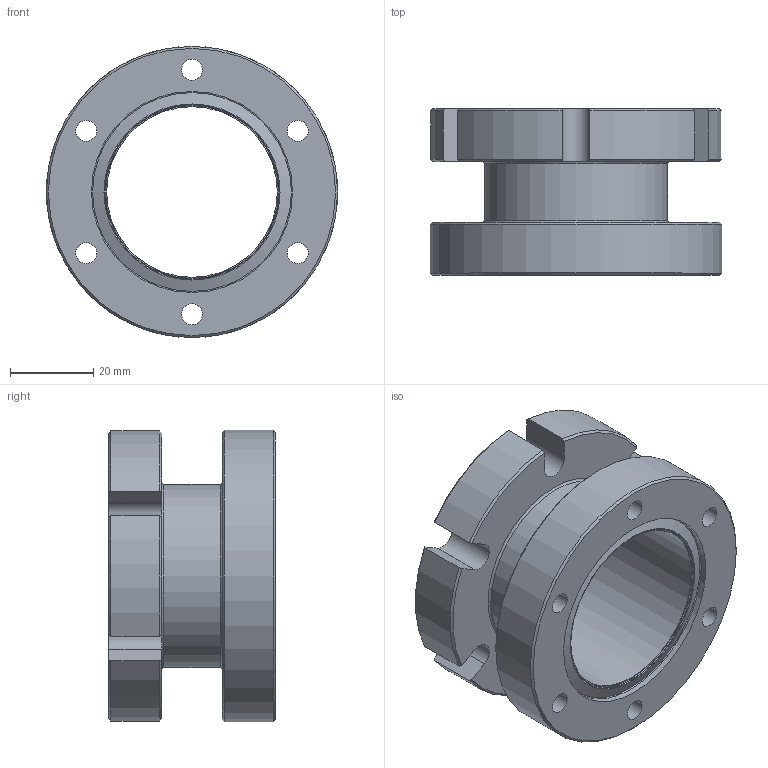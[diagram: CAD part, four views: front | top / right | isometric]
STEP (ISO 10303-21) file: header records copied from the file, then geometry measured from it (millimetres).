
FILE_DESCRIPTION(/* description */ (''),/* implementation_level */ '2;1');
FILE_NAME(/* name */ '',/* time_stamp */ '2024-03-04T11:01:28+09:00',/* author */ (''),/* organization */ (''),/* preprocessor_version */ 'ST-DEVELOPER v20',/* originating_system */ 'Autodesk Translation Framework v12.20.1.177',/* authorisation */ '');
FILE_SCHEMA (('AUTOMOTIVE_DESIGN { 1 0 10303 214 3 1 1 }'));
Length unit declared in the file: millimetre
Products named in the file (3): カタログ用 MNEX(L=40mm); ICF70(t5φ50)ブランク(BeCu)20
° v1; ICF70(t5φ50)ブランク(BeCu)20
° v1 (1)
Assembly tree (2 placements, depth 2):
  カタログ用 MNEX(L=40mm)
    ICF70(t5φ50)ブランク(BeCu)20
° v1
    ICF70(t5φ50)ブランク(BeCu)20
° v1 (1)
Bounding box: 70 x 40 x 70 mm (x, y, z)
Volume: 60072.6 mm3; surface area: 23931.1 mm2
Topology: 1 solids, 1 shells, 67 faces, 181 edges, 120 vertices
Faces by surface type: cylinder 25, plane 18, cone 16, torus 8
Full cylindrical faces by diameter (mm): 5.035 x6, 41 x1, 41.9 x2, 44 x1, 48.3 x2, 70 x1
Entity records: 2254 total; most frequent: CARTESIAN_POINT 421, DIRECTION 393, ORIENTED_EDGE 362, EDGE_CURVE 181, AXIS2_PLACEMENT_3D 164, VERTEX_POINT 120, CIRCLE 92, EDGE_LOOP 85
